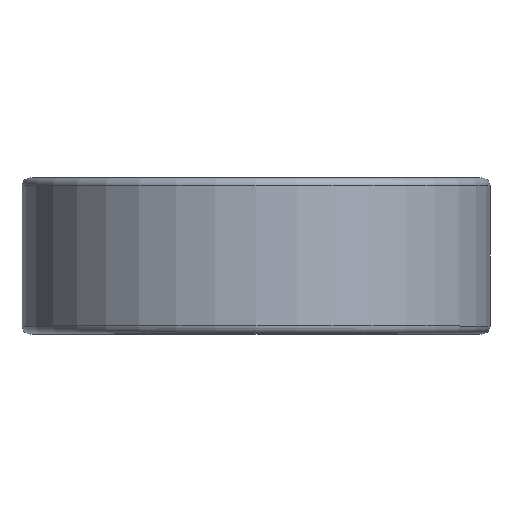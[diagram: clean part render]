
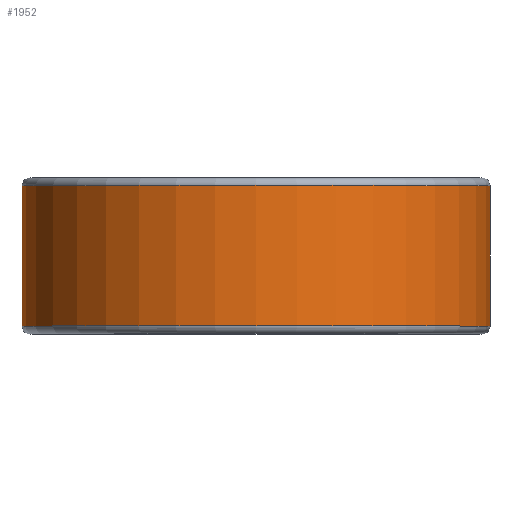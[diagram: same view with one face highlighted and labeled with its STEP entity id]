
A CAD part, top view. The second image highlights one B-rep face of the part: STEP entity #1952.
In plain terms, the highlighted cylindrical face has radius 4.5 mm (diameter 9 mm), a full revolution.
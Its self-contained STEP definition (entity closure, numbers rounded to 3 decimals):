
#116=CYLINDRICAL_SURFACE('',#2234,4.5);
#196=LINE('',#3402,#232);
#232=VECTOR('',#2794,4.5);
#326=FACE_OUTER_BOUND('',#442,.T.);
#442=EDGE_LOOP('',(#1597,#1598,#1599,#1600,#1601,#1602));
#658=CIRCLE('',#2231,4.5);
#659=CIRCLE('',#2232,4.5);
#661=CIRCLE('',#2235,4.5);
#662=CIRCLE('',#2236,4.5);
#855=VERTEX_POINT('',#3394);
#856=VERTEX_POINT('',#3396);
#857=VERTEX_POINT('',#3401);
#858=VERTEX_POINT('',#3403);
#1131=EDGE_CURVE('',#855,#856,#658,.T.);
#1132=EDGE_CURVE('',#856,#855,#659,.T.);
#1134=EDGE_CURVE('',#855,#857,#196,.T.);
#1135=EDGE_CURVE('',#858,#857,#661,.T.);
#1136=EDGE_CURVE('',#857,#858,#662,.T.);
#1597=ORIENTED_EDGE('',*,*,#1132,.F.);
#1598=ORIENTED_EDGE('',*,*,#1131,.F.);
#1599=ORIENTED_EDGE('',*,*,#1134,.T.);
#1600=ORIENTED_EDGE('',*,*,#1135,.F.);
#1601=ORIENTED_EDGE('',*,*,#1136,.F.);
#1602=ORIENTED_EDGE('',*,*,#1134,.F.);
#1952=ADVANCED_FACE('',(#326),#116,.T.);
#2231=AXIS2_PLACEMENT_3D('',#3397,#2786,#2787);
#2232=AXIS2_PLACEMENT_3D('',#3398,#2788,#2789);
#2234=AXIS2_PLACEMENT_3D('',#3400,#2792,#2793);
#2235=AXIS2_PLACEMENT_3D('',#3404,#2795,#2796);
#2236=AXIS2_PLACEMENT_3D('',#3405,#2797,#2798);
#2786=DIRECTION('center_axis',(0.,1.,0.));
#2787=DIRECTION('ref_axis',(0.,0.,-1.));
#2788=DIRECTION('center_axis',(0.,1.,0.));
#2789=DIRECTION('ref_axis',(0.,0.,-1.));
#2792=DIRECTION('center_axis',(0.,1.,0.));
#2793=DIRECTION('ref_axis',(0.,0.,1.));
#2794=DIRECTION('',(0.,-1.,0.));
#2795=DIRECTION('center_axis',(0.,-1.,0.));
#2796=DIRECTION('ref_axis',(0.,0.,-1.));
#2797=DIRECTION('center_axis',(0.,-1.,0.));
#2798=DIRECTION('ref_axis',(0.,0.,-1.));
#3394=CARTESIAN_POINT('',(0.,1.35,-4.5));
#3396=CARTESIAN_POINT('',(0.,1.35,4.5));
#3397=CARTESIAN_POINT('Origin',(0.,1.35,0.));
#3398=CARTESIAN_POINT('Origin',(0.,1.35,0.));
#3400=CARTESIAN_POINT('Origin',(0.,0.,0.));
#3401=CARTESIAN_POINT('',(0.,-1.35,-4.5));
#3402=CARTESIAN_POINT('',(0.,0.,-4.5));
#3403=CARTESIAN_POINT('',(0.,-1.35,4.5));
#3404=CARTESIAN_POINT('Origin',(0.,-1.35,0.));
#3405=CARTESIAN_POINT('Origin',(0.,-1.35,0.));
